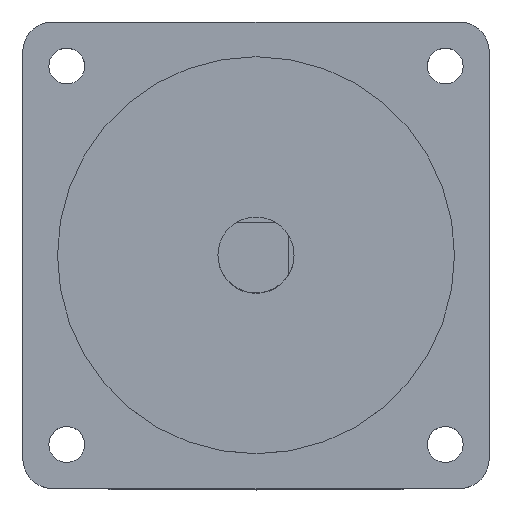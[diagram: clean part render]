
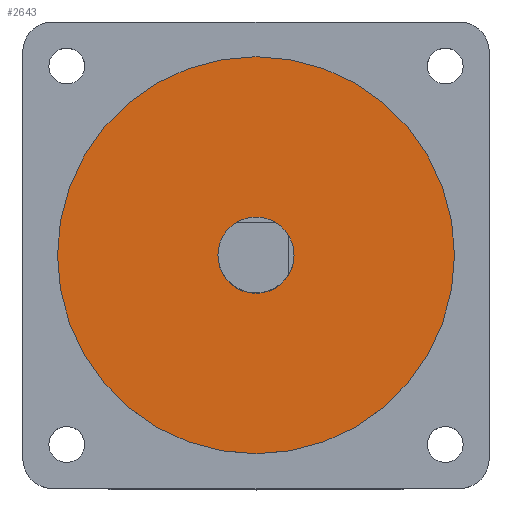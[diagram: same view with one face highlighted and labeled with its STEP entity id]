
A CAD part, top view. The second image highlights one B-rep face of the part: STEP entity #2643.
In plain terms, the highlighted planar face has unit normal (0, 0, 1).
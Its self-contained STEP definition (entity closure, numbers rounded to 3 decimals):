
#350 = AXIS2_PLACEMENT_3D ( 'NONE', #3110, #1287, #3403 ) ;
#423 = ORIENTED_EDGE ( 'NONE', *, *, #2849, .T. ) ;
#424 = EDGE_CURVE ( 'NONE', #2449, #1422, #1540, .T. ) ;
#600 = FACE_OUTER_BOUND ( 'NONE', #1602, .T. ) ;
#647 = AXIS2_PLACEMENT_3D ( 'NONE', #1059, #3191, #1370 ) ;
#681 = CIRCLE ( 'NONE', #647, 36.513 ) ;
#1059 = CARTESIAN_POINT ( 'NONE',  ( 0., 0., 1.6 ) ) ;
#1110 = CARTESIAN_POINT ( 'NONE',  ( -36.513, 0., 1.6 ) ) ;
#1222 = DIRECTION ( 'NONE',  ( 1., 0., 0. ) ) ;
#1242 = DIRECTION ( 'NONE',  ( 0., 0., -1. ) ) ;
#1259 = CARTESIAN_POINT ( 'NONE',  ( 0., 0., 1.6 ) ) ;
#1260 = AXIS2_PLACEMENT_3D ( 'NONE', #2585, #1672, #3791 ) ;
#1287 = DIRECTION ( 'NONE',  ( 0., 0., 1. ) ) ;
#1334 = ORIENTED_EDGE ( 'NONE', *, *, #424, .T. ) ;
#1369 = AXIS2_PLACEMENT_3D ( 'NONE', #1259, #1242, #1222 ) ;
#1370 = DIRECTION ( 'NONE',  ( 1., 0., 0. ) ) ;
#1422 = VERTEX_POINT ( 'NONE', #1701 ) ;
#1540 = CIRCLE ( 'NONE', #1369, 7. ) ;
#1584 = DIRECTION ( 'NONE',  ( 1., 0., 0. ) ) ;
#1602 = EDGE_LOOP ( 'NONE', ( #3466, #423 ) ) ;
#1672 = DIRECTION ( 'NONE',  ( 0., 0., 1. ) ) ;
#1701 = CARTESIAN_POINT ( 'NONE',  ( 7., 0., 1.6 ) ) ;
#1821 = DIRECTION ( 'NONE',  ( 0., 0., -1. ) ) ;
#1840 = CARTESIAN_POINT ( 'NONE',  ( 0., 0., 1.6 ) ) ;
#1955 = VERTEX_POINT ( 'NONE', #2516 ) ;
#1967 = PLANE ( 'NONE',  #1260 ) ;
#2079 = CIRCLE ( 'NONE', #350, 36.513 ) ;
#2117 = EDGE_CURVE ( 'NONE', #1422, #2449, #2526, .T. ) ;
#2261 = ORIENTED_EDGE ( 'NONE', *, *, #2117, .T. ) ;
#2449 = VERTEX_POINT ( 'NONE', #3510 ) ;
#2516 = CARTESIAN_POINT ( 'NONE',  ( 36.513, 0., 1.6 ) ) ;
#2526 = CIRCLE ( 'NONE', #3531, 7. ) ;
#2585 = CARTESIAN_POINT ( 'NONE',  ( 0., 0., 1.6 ) ) ;
#2641 = EDGE_CURVE ( 'NONE', #3609, #1955, #681, .T. ) ;
#2643 = ADVANCED_FACE ( 'NONE', ( #600, #3716 ), #1967, .T. ) ;
#2705 = EDGE_LOOP ( 'NONE', ( #1334, #2261 ) ) ;
#2849 = EDGE_CURVE ( 'NONE', #1955, #3609, #2079, .T. ) ;
#3110 = CARTESIAN_POINT ( 'NONE',  ( 0., 0., 1.6 ) ) ;
#3191 = DIRECTION ( 'NONE',  ( 0., 0., 1. ) ) ;
#3403 = DIRECTION ( 'NONE',  ( 1., 0., 0. ) ) ;
#3466 = ORIENTED_EDGE ( 'NONE', *, *, #2641, .T. ) ;
#3510 = CARTESIAN_POINT ( 'NONE',  ( -7., 0., 1.6 ) ) ;
#3531 = AXIS2_PLACEMENT_3D ( 'NONE', #1840, #1821, #1584 ) ;
#3609 = VERTEX_POINT ( 'NONE', #1110 ) ;
#3716 = FACE_BOUND ( 'NONE', #2705, .T. ) ;
#3791 = DIRECTION ( 'NONE',  ( 1., 0., 0. ) ) ;
